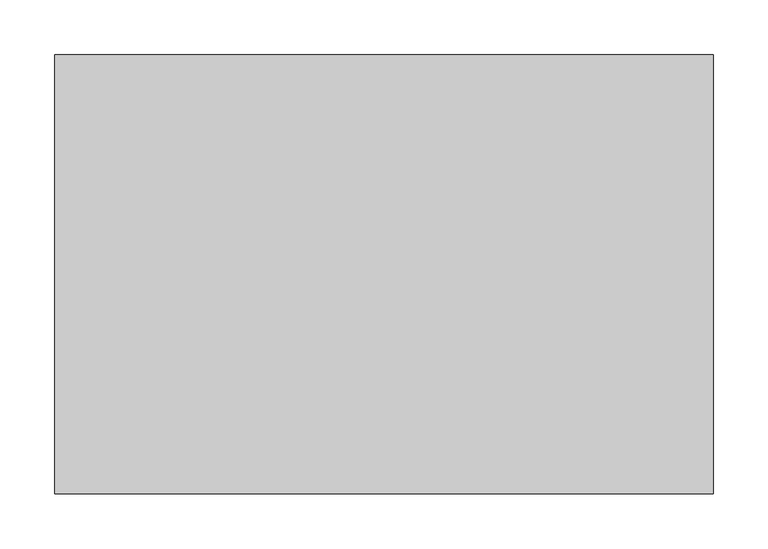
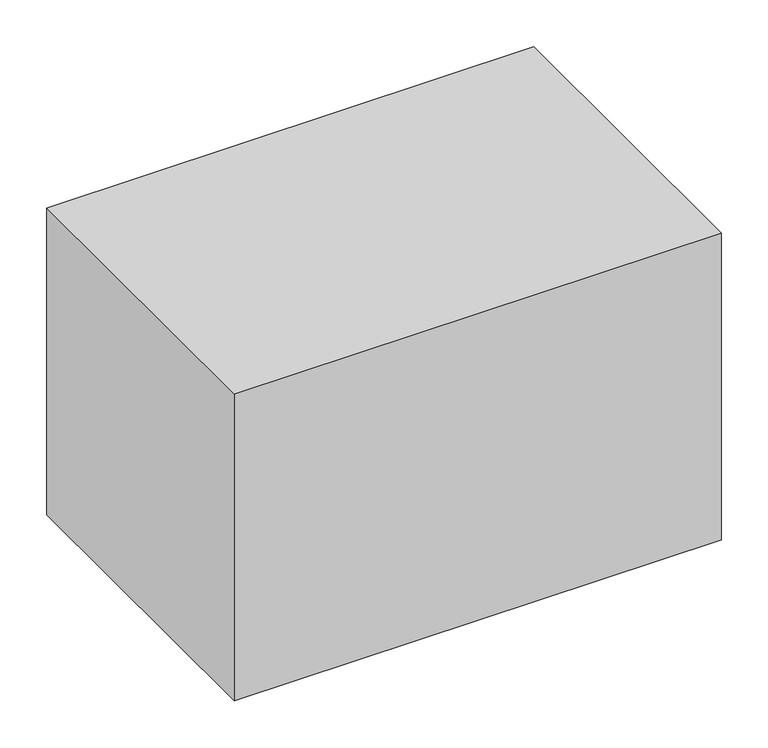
"""IFC4 building model written with IfcOpenShell, lengths in millimetres: proxy geometry, Movél18 : Movél."""

import ifcopenshell
import ifcopenshell.guid

model = None  # the IFC model being written
_history = None  # IfcOwnerHistory: only IFC2X3 demands one
_inside = {}  # id of a spatial element -> (the spatial element, [elements in it])
_under = {}  # id of a project, library or spatial element -> (it, [spatial elements below it])
_declared = {}  # id of a project -> (the project, [libraries it declares])
_typed = {}  # id of a type object -> (the type object, [elements of that type])
_made_of = {}  # id of a material, layer set ... -> (it, [elements and type objects made of it])


def new_model(schema):
    """Start an empty IFC model of exactly this schema.

    Asked for "IFC4X3", IfcOpenShell would pick the latest addendum, in which some entities
    have other attributes; the version numbers below select the first issue.
    IFC2X3 requires an IfcOwnerHistory on every rooted entity: one is made here for all.
    """
    global model, _history
    if schema == "IFC4X3":
        model = ifcopenshell.file(schema_version=(4, 3, 0, 0))
    else:
        model = ifcopenshell.file(schema=schema)
    _inside.clear()
    _under.clear()
    _declared.clear()
    _typed.clear()
    _made_of.clear()
    _history = None
    if model.schema == "IFC2X3":
        org = make("IfcOrganization", Name="unknown")
        user = make(
            "IfcPersonAndOrganization",
            ThePerson=make("IfcPerson", FamilyName="unknown"),
            TheOrganization=org,
        )
        app = make(
            "IfcApplication",
            ApplicationDeveloper=org,
            Version="unknown",
            ApplicationFullName="unknown",
            ApplicationIdentifier="unknown",
        )
        _history = make(
            "IfcOwnerHistory",
            OwningUser=user,
            OwningApplication=app,
            ChangeAction="ADDED",
            CreationDate=0,
        )
    return model


def make(cls, **values):
    """One entity of the class cls with the attributes given. An attribute that is None is left unset."""
    return model.create_entity(
        cls, **{name: value for name, value in values.items() if value is not None}
    )


def rooted(cls, **values):
    """An entity with a GlobalId (a new one), such as an element, a storey or a relation."""
    return make(cls, GlobalId=ifcopenshell.guid.new(), OwnerHistory=_history, **values)


def si_unit(unit_type, name, prefix=None):
    """IfcSIUnit, for example si_unit("LENGTHUNIT", "METRE", prefix="MILLI")."""
    return make("IfcSIUnit", UnitType=unit_type, Prefix=prefix, Name=name)


def assignment(units):
    """IfcUnitAssignment: the units of a project."""
    return None if units is None else make("IfcUnitAssignment", Units=units)


def point(xyz):
    """IfcCartesianPoint."""
    return None if xyz is None else make("IfcCartesianPoint", Coordinates=xyz)


def direction(xyz):
    """IfcDirection."""
    return None if xyz is None else make("IfcDirection", DirectionRatios=xyz)


def frame(location, z_axis=None, x_axis=None):
    """IfcAxis2Placement3D, a coordinate frame: its origin and axes. An axis left out is left unset."""
    return make(
        "IfcAxis2Placement3D",
        Location=point(location),
        Axis=direction(z_axis),
        RefDirection=direction(x_axis),
    )


def origin():
    """The frame at (0, 0, 0) with its axes left unset."""
    return frame((0.0, 0.0, 0.0))


def place(relative_to, where):
    """IfcLocalPlacement: puts the frame where relative to a parent placement (None: the world)."""
    return make(
        "IfcLocalPlacement", PlacementRelTo=relative_to, RelativePlacement=where
    )


def context(
    kind, dimensions, precision=None, world=None, true_north=None, identifier=None
):
    """IfcGeometricRepresentationContext, for example the 3D "Model" context."""
    return make(
        "IfcGeometricRepresentationContext",
        ContextIdentifier=identifier,
        ContextType=kind,
        CoordinateSpaceDimension=dimensions,
        Precision=precision,
        WorldCoordinateSystem=world,
        TrueNorth=true_north,
    )


def project(units=None, contexts=None):
    """IfcProject with its units and contexts."""
    return rooted(
        "IfcProject",
        Name="project",
        RepresentationContexts=contexts,
        UnitsInContext=assignment(units),
    )


def spatial(cls, under=None, at=None, **own):
    """A site, building, storey or space (cls), placed at a placement, below another one or the project."""
    s = rooted(cls, ObjectPlacement=at, **own)
    if under is not None:
        _under.setdefault(under.id(), (under, []))[1].append(s)
    return s


def polyline(points):
    """IfcPolyline through the points."""
    return make("IfcPolyline", Points=[point(p) for p in points])


def outline(outer, holes=None, kind="AREA"):
    """IfcArbitraryClosedProfileDef: a profile drawn as a closed curve; with holes, ...WithVoids."""
    if holes is None:
        return make("IfcArbitraryClosedProfileDef", ProfileType=kind, OuterCurve=outer)
    return make(
        "IfcArbitraryProfileDefWithVoids",
        ProfileType=kind,
        OuterCurve=outer,
        InnerCurves=holes,
    )


def extrude(swept, where, along, depth):
    """IfcExtrudedAreaSolid: the profile swept, set in the frame where, extruded along a direction by depth."""
    return make(
        "IfcExtrudedAreaSolid",
        SweptArea=swept,
        Position=where,
        ExtrudedDirection=direction(along),
        Depth=depth,
    )


def shape(context_of_items, identifier, shape_type, items):
    """IfcShapeRepresentation: the items that make up one representation, for example the "Body"."""
    return make(
        "IfcShapeRepresentation",
        ContextOfItems=context_of_items,
        RepresentationIdentifier=identifier,
        RepresentationType=shape_type,
        Items=items,
    )


def source(mapping_origin, context_of_items, identifier, shape_type, items):
    """IfcRepresentationMap: a shape defined once, which mapped items show again and again."""
    return make(
        "IfcRepresentationMap",
        MappingOrigin=mapping_origin,
        MappedRepresentation=shape(context_of_items, identifier, shape_type, items),
    )


def transform(
    local_origin,
    x_axis=None,
    y_axis=None,
    z_axis=None,
    scale=None,
    scale2=None,
    scale3=None,
    uniform=True,
):
    """IfcCartesianTransformationOperator3D, or its non-uniform kind. x_axis, y_axis, z_axis: its Axis1, 2, 3."""
    if uniform:
        return make(
            "IfcCartesianTransformationOperator3D",
            Axis1=direction(x_axis),
            Axis2=direction(y_axis),
            LocalOrigin=point(local_origin),
            Scale=scale,
            Axis3=direction(z_axis),
        )
    return make(
        "IfcCartesianTransformationOperator3DnonUniform",
        Axis1=direction(x_axis),
        Axis2=direction(y_axis),
        LocalOrigin=point(local_origin),
        Scale=scale,
        Axis3=direction(z_axis),
        Scale2=scale2,
        Scale3=scale3,
    )


def mapped(mapping_source, mapping_target):
    """IfcMappedItem: shows the shape of a source again, moved by a transform."""
    return make(
        "IfcMappedItem", MappingSource=mapping_source, MappingTarget=mapping_target
    )


def made_of(thing, what):
    """Note that an element or type object is made of a material, layer set ...; save() writes the relation."""
    if what is not None:
        _made_of.setdefault(what.id(), (what, []))[1].append(thing)
    return thing


def element(
    cls,
    number,
    at=None,
    inside=None,
    cuts=None,
    type_object=None,
    material=None,
    context=None,
    identifier="Body",
    shape_type=None,
    held_by="IfcProductDefinitionShape",
    body=None,
    shapes=None,
    **own,
):
    """One element of the class cls, such as IfcWall. Its Tag is "e" and its number.

    at: its placement. inside: the storey or other place that contains it. cuts: it is an
    opening in that element (IfcRelVoidsElement). A single representation is given by context,
    identifier, shape_type and body (its items); several are given by shapes. held_by: the class
    of the entity that holds the representations. save() writes the other relations.
    """
    e = rooted(cls, Tag="e%d" % number, ObjectPlacement=at, **own)
    if body is not None:
        shapes = [shape(context, identifier, shape_type, body)]
    if shapes is not None:
        e.Representation = make(held_by, Representations=shapes)
    if inside is not None:
        _inside.setdefault(inside.id(), (inside, []))[1].append(e)
    if cuts is not None:
        rooted(
            "IfcRelVoidsElement", RelatingBuildingElement=cuts, RelatedOpeningElement=e
        )
    if type_object is not None:
        _typed.setdefault(type_object.id(), (type_object, []))[1].append(e)
    return made_of(e, material)


def aggregate(whole, parts):
    """IfcRelAggregates: a whole, such as a stair, and the parts it consists of."""
    return rooted("IfcRelAggregates", RelatingObject=whole, RelatedObjects=parts)


def save(model, path):
    """Write the relations noted so far, then the file.

    IfcRelAggregates (storeys below a building ...), IfcRelContainedInSpatialStructure (elements
    in a storey), IfcRelDefinesByType, IfcRelAssociatesMaterial and IfcRelDeclares: one each for
    every whole, place, type object, material and project.
    """
    for whole, parts in _under.values():
        aggregate(whole, parts)
    for where, things in _inside.values():
        rooted(
            "IfcRelContainedInSpatialStructure",
            RelatedElements=things,
            RelatingStructure=where,
        )
    for kind, things in _typed.values():
        rooted("IfcRelDefinesByType", RelatedObjects=things, RelatingType=kind)
    for what, things in _made_of.values():
        rooted("IfcRelAssociatesMaterial", RelatedObjects=things, RelatingMaterial=what)
    for by, libraries in _declared.values():
        rooted("IfcRelDeclares", RelatingContext=by, RelatedDefinitions=libraries)
    model.write(path)


def generic_models_594d3b66(model_context):
    return source(origin(), model_context, "Body", "SweptSolid", [
        extrude(outline(polyline([(29488.6646378, 16442.1029258), (29488.6646378, 16042.1029258), (28888.6646378, 16042.1029258), (28888.6646378, 16442.1029258), (29488.6646378, 16442.1029258)])), frame((0.0, 0.0, 400.0), z_axis=(0.0, 0.0, 1.0), x_axis=(1.0, 0.0, 0.0)), (0.0, 0.0, 1.0), 400.0),
    ])


if __name__ == "__main__":
    model = new_model("IFC4")
    model_context = context("Model", 3, world=origin())
    ifc_project = project(units=[si_unit("LENGTHUNIT", "METRE", prefix="MILLI")], contexts=[model_context])
    site = spatial("IfcSite", under=ifc_project)
    building = spatial("IfcBuilding", under=site)
    placement = place(None, origin())
    generic_models_shape = generic_models_594d3b66(model_context)
    element("IfcBuildingElementProxy", 1, Name="Movél18 : Movél", ObjectType="Movél18 : Movél", at=placement, inside=building, context=model_context, shape_type="MappedRepresentation", body=[
        mapped(generic_models_shape, transform((0.0, 0.0, 0.0), x_axis=(1.0, 0.0, 0.0), y_axis=(0.0, 1.0, 0.0), z_axis=(0.0, 0.0, 1.0))),
    ])
    save(model, "model.ifc")
